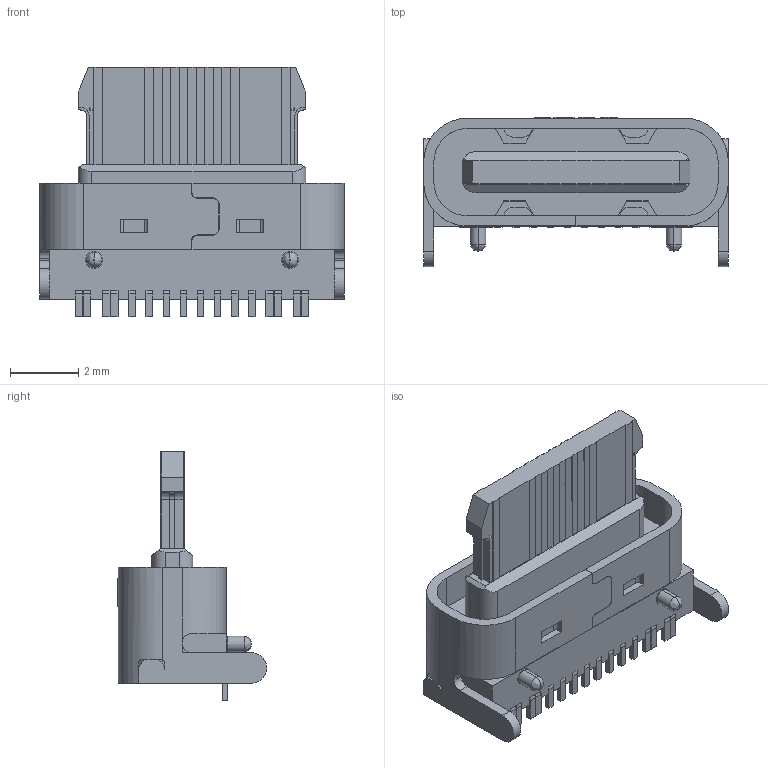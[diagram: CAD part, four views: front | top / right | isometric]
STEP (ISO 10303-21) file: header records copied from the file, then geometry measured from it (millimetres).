
FILE_DESCRIPTION (( 'STEP AP214' ), '1' );
FILE_NAME ('U5085-16PNW6.95L.STEP', '2026-06-02T05:33:05', ( '' ), ( '' ), 'SwSTEP 2.0', 'SolidWorks 2024', '' );
FILE_SCHEMA (( 'AUTOMOTIVE_DESIGN' ));
Length unit declared in the file: millimetre
Products named in the file (1): U5085-16PNW6.95L
Bounding box: 8.94 x 4.38 x 7.31 mm (x, y, z)
Volume: 93 mm3; surface area: 258.6 mm2
Topology: 1 solids, 43 shells, 835 faces, 2127 edges, 1399 vertices
Faces by surface type: plane 651, cylinder 134, bspline 41, cone 5, torus 4
Entity records: 26815 total; most frequent: CARTESIAN_POINT 6836, ORIENTED_EDGE 4254, DIRECTION 3818, EDGE_CURVE 2127, LINE 1712, VECTOR 1712, VERTEX_POINT 1399, AXIS2_PLACEMENT_3D 1053
